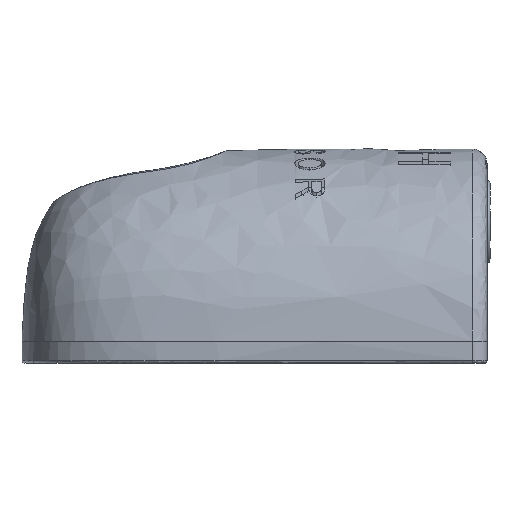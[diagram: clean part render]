
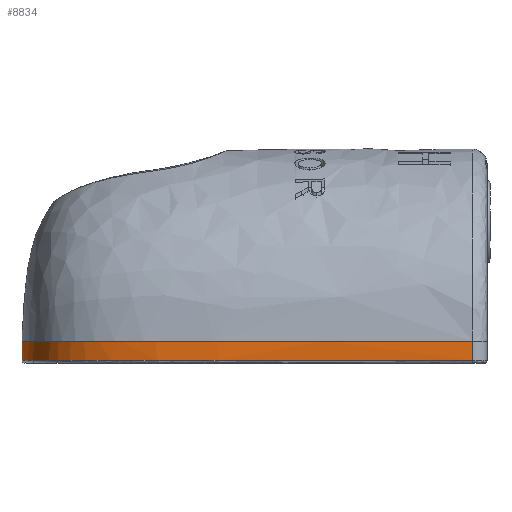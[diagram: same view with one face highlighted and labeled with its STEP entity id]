
A CAD part, front view. The second image highlights one B-rep face of the part: STEP entity #8834.
In plain terms, the highlighted free-form (B-spline) face has degree [3, 1] with [6, 2] control points.
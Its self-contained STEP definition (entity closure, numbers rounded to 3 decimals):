
#546 = CARTESIAN_POINT ( 'NONE',  ( -10.366, -11.782, -0.1 ) ) ;
#1059 = CARTESIAN_POINT ( 'NONE',  ( -12.267, -10.878, -0.1 ) ) ;
#1162 = CARTESIAN_POINT ( 'NONE',  ( -15.785, -3.148, -0.1 ) ) ;
#1177 = EDGE_CURVE ( 'NONE', #14614, #11836, #14942, .T. ) ;
#1275 = CARTESIAN_POINT ( 'NONE',  ( -15.885, -1.585, -0.1 ) ) ;
#1488 = CARTESIAN_POINT ( 'NONE',  ( 9.983, -13.139, 1.2 ) ) ;
#2122 = CARTESIAN_POINT ( 'NONE',  ( -15.796, -3.615, -0.1 ) ) ;
#2887 = CARTESIAN_POINT ( 'NONE',  ( -11.531, -11.29, -0.1 ) ) ;
#2991 = B_SPLINE_CURVE_WITH_KNOTS ( 'NONE', 3,
 ( #19846, #21466, #24457, #26638, #19747, #28975, #23819, #21563, #26140, #22295, #15061, #14553, #546, #16865, #2887, #1059, #8223, #17397, #3638, #29079, #5802, #15265, #22106, #8126, #10460, #15165, #26753, #8326, #1162, #1275, #17491, #5893 ),
 .UNSPECIFIED., .F., .F.,
 ( 4, 2, 2, 2, 2, 2, 2, 2, 2, 2, 2, 2, 2, 2, 2, 4 ),
 ( 0., 0.252, 0.377, 0.503, 0.566, 0.629, 0.66, 0.692, 0.723, 0.755, 0.786, 0.817, 0.849, 0.88, 0.943, 1. ),
 .UNSPECIFIED. ) ;
#3290 = CARTESIAN_POINT ( 'NONE',  ( 14.557, -13.109, 0.6 ) ) ;
#3408 = B_SPLINE_SURFACE_WITH_KNOTS ( 'NONE', 3, 1, ( 
 ( #9268, #11613 ),
 ( #18140, #2122 ),
 ( #6540, #13963 ),
 ( #22952, #13662 ),
 ( #22848, #4183 ),
 ( #25195, #20478 ) ),
 .UNSPECIFIED., .F., .F., .F.,
 ( 4, 1, 1, 4 ),
 ( 2, 2 ),
 ( 0., 0.239, 0.606, 0.973 ),
 ( 0., 1. ),
 .UNSPECIFIED. ) ;
#3574 = VERTEX_POINT ( 'NONE', #19459 ) ;
#3638 = CARTESIAN_POINT ( 'NONE',  ( -13.593, -9.807, -0.1 ) ) ;
#4183 = CARTESIAN_POINT ( 'NONE',  ( 9.983, -13.139, -0.1 ) ) ;
#4367 = EDGE_CURVE ( 'NONE', #3574, #14371, #16272, .T. ) ;
#5096 = VECTOR ( 'NONE', #22212, 1000. ) ;
#5802 = CARTESIAN_POINT ( 'NONE',  ( -14.364, -8.777, -0.1 ) ) ;
#5893 = CARTESIAN_POINT ( 'NONE',  ( -15.95, -0.103, -0.1 ) ) ;
#6057 = B_SPLINE_CURVE_WITH_KNOTS ( 'NONE', 3,
 ( #25080, #29494, #15388, #17712, #1488, #17812 ),
 .UNSPECIFIED., .F., .F.,
 ( 4, 1, 1, 4 ),
 ( 0., 0.01, 0.024, 0.039 ),
 .UNSPECIFIED. ) ;
#6540 = CARTESIAN_POINT ( 'NONE',  ( -15.405, -12.521, 1.2 ) ) ;
#8080 = ORIENTED_EDGE ( 'NONE', *, *, #1177, .F. ) ;
#8126 = CARTESIAN_POINT ( 'NONE',  ( -15.177, -6.835, -0.1 ) ) ;
#8223 = CARTESIAN_POINT ( 'NONE',  ( -12.622, -10.644, -0.1 ) ) ;
#8326 = CARTESIAN_POINT ( 'NONE',  ( -15.714, -3.969, -0.1 ) ) ;
#8563 = ORIENTED_EDGE ( 'NONE', *, *, #29202, .F. ) ;
#8834 = ADVANCED_FACE ( 'NONE', ( #22302 ), #3408, .F. ) ;
#9268 = CARTESIAN_POINT ( 'NONE',  ( -15.95, -0.103, 1.2 ) ) ;
#10313 = EDGE_LOOP ( 'NONE', ( #25923, #21323, #8563, #8080 ) ) ;
#10322 = CARTESIAN_POINT ( 'NONE',  ( -15.95, -0.103, 1.2 ) ) ;
#10460 = CARTESIAN_POINT ( 'NONE',  ( -15.286, -6.426, -0.1 ) ) ;
#10650 = CARTESIAN_POINT ( 'NONE',  ( 14.557, -13.109, -0.1 ) ) ;
#11613 = CARTESIAN_POINT ( 'NONE',  ( -15.95, -0.103, -0.1 ) ) ;
#11836 = VERTEX_POINT ( 'NONE', #10322 ) ;
#13662 = CARTESIAN_POINT ( 'NONE',  ( 0.746, -13.182, -0.1 ) ) ;
#13963 = CARTESIAN_POINT ( 'NONE',  ( -15.405, -12.521, -0.1 ) ) ;
#14371 = VERTEX_POINT ( 'NONE', #10650 ) ;
#14553 = CARTESIAN_POINT ( 'NONE',  ( -9.97, -11.915, -0.1 ) ) ;
#14614 = VERTEX_POINT ( 'NONE', #21533 ) ;
#14736 = DIRECTION ( 'NONE',  ( 0., 0., -1. ) ) ;
#14942 = LINE ( 'NONE', #15674, #5096 ) ;
#15061 = CARTESIAN_POINT ( 'NONE',  ( -8.782, -12.263, -0.1 ) ) ;
#15165 = CARTESIAN_POINT ( 'NONE',  ( -15.465, -5.608, -0.1 ) ) ;
#15265 = CARTESIAN_POINT ( 'NONE',  ( -14.752, -8.022, -0.1 ) ) ;
#15388 = CARTESIAN_POINT ( 'NONE',  ( -15.405, -12.521, 1.2 ) ) ;
#15674 = CARTESIAN_POINT ( 'NONE',  ( -15.95, -0.103, 0.55 ) ) ;
#16272 = LINE ( 'NONE', #3290, #17372 ) ;
#16865 = CARTESIAN_POINT ( 'NONE',  ( -11.15, -11.468, -0.1 ) ) ;
#17372 = VECTOR ( 'NONE', #14736, 1000. ) ;
#17397 = CARTESIAN_POINT ( 'NONE',  ( -13.289, -10.105, -0.1 ) ) ;
#17491 = CARTESIAN_POINT ( 'NONE',  ( -15.918, -0.843, -0.1 ) ) ;
#17712 = CARTESIAN_POINT ( 'NONE',  ( 0.746, -13.182, 1.2 ) ) ;
#17812 = CARTESIAN_POINT ( 'NONE',  ( 14.557, -13.109, 1.2 ) ) ;
#18140 = CARTESIAN_POINT ( 'NONE',  ( -15.796, -3.615, 1.2 ) ) ;
#19459 = CARTESIAN_POINT ( 'NONE',  ( 14.557, -13.109, 1.2 ) ) ;
#19747 = CARTESIAN_POINT ( 'NONE',  ( 1.661, -13.081, -0.1 ) ) ;
#19846 = CARTESIAN_POINT ( 'NONE',  ( 14.557, -13.109, -0.1 ) ) ;
#20478 = CARTESIAN_POINT ( 'NONE',  ( 14.557, -13.109, -0.1 ) ) ;
#21323 = ORIENTED_EDGE ( 'NONE', *, *, #4367, .F. ) ;
#21466 = CARTESIAN_POINT ( 'NONE',  ( 11.334, -13.13, -0.1 ) ) ;
#21533 = CARTESIAN_POINT ( 'NONE',  ( -15.95, -0.103, -0.1 ) ) ;
#21563 = CARTESIAN_POINT ( 'NONE',  ( -5.585, -12.77, -0.1 ) ) ;
#22106 = CARTESIAN_POINT ( 'NONE',  ( -14.911, -7.632, -0.1 ) ) ;
#22212 = DIRECTION ( 'NONE',  ( 0., 0., 1. ) ) ;
#22295 = CARTESIAN_POINT ( 'NONE',  ( -7.986, -12.427, -0.1 ) ) ;
#22302 = FACE_OUTER_BOUND ( 'NONE', #10313, .T. ) ;
#22848 = CARTESIAN_POINT ( 'NONE',  ( 9.983, -13.139, 1.2 ) ) ;
#22952 = CARTESIAN_POINT ( 'NONE',  ( 0.746, -13.182, 1.2 ) ) ;
#23819 = CARTESIAN_POINT ( 'NONE',  ( -3.175, -12.97, -0.1 ) ) ;
#24457 = CARTESIAN_POINT ( 'NONE',  ( 8.11, -13.145, -0.1 ) ) ;
#25080 = CARTESIAN_POINT ( 'NONE',  ( -15.95, -0.103, 1.2 ) ) ;
#25195 = CARTESIAN_POINT ( 'NONE',  ( 14.557, -13.109, 1.2 ) ) ;
#25923 = ORIENTED_EDGE ( 'NONE', *, *, #27434, .F. ) ;
#26140 = CARTESIAN_POINT ( 'NONE',  ( -6.387, -12.681, -0.1 ) ) ;
#26638 = CARTESIAN_POINT ( 'NONE',  ( 3.273, -13.105, -0.1 ) ) ;
#26753 = CARTESIAN_POINT ( 'NONE',  ( -15.537, -5.198, -0.1 ) ) ;
#27434 = EDGE_CURVE ( 'NONE', #14371, #14614, #2991, .T. ) ;
#28975 = CARTESIAN_POINT ( 'NONE',  ( -1.562, -13.013, -0.1 ) ) ;
#29079 = CARTESIAN_POINT ( 'NONE',  ( -14.131, -9.145, -0.1 ) ) ;
#29202 = EDGE_CURVE ( 'NONE', #11836, #3574, #6057, .T. ) ;
#29494 = CARTESIAN_POINT ( 'NONE',  ( -15.796, -3.615, 1.2 ) ) ;
